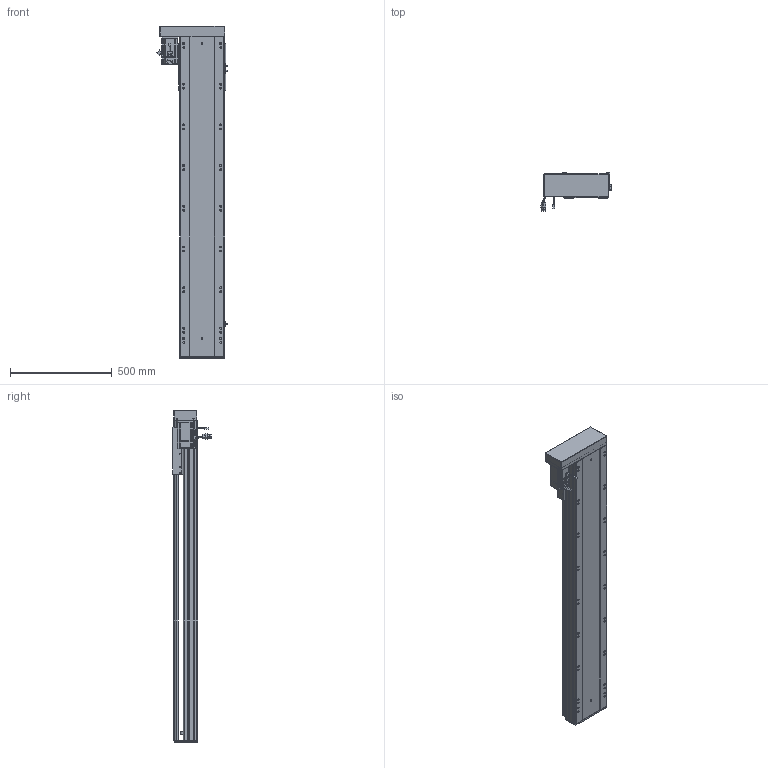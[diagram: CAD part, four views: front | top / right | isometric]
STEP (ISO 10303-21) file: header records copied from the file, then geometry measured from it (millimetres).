
FILE_DESCRIPTION (( 'STEP AP203' ), '1' );
FILE_NAME ('RY220-L2525-300-LK.SLDASM_1250.step', '2022-07-04T01:47:12', ( '' ), ( '' ), 'SwSTEP 2.0', 'SolidWorks 2016', '' );
FILE_SCHEMA (( 'CONFIG_CONTROL_DESIGN' ));
Length unit declared in the file: millimetre
Products named in the file (12): RY220綴裔啣; RY220蛌殏菁釱-300_1250; RY220酘衵殏萇儂欶; 覜茼ん672; RY220-L2525-300-LK.SLDASM_1250; RY220左右折电机安装板; 怢湛750W_ECMA-CX0807ES; 滅袉蝶18-15; RY220-300-蛌殏奻裔啣_1250; RY220-俋离672覜茼んえ; 滅袉蝶18-10; RY220半封闭25-32螺母铝滑块
Assembly tree (15 placements, depth 2):
  RY220-L2525-300-LK.SLDASM_1250
    RY220蛌殏菁釱-300_1250
    RY220-300-蛌殏奻裔啣_1250
    怢湛750W_ECMA-CX0807ES
    滅袉蝶18-10  x2
    RY220-俋离672覜茼んえ
    覜茼ん672  x3
    RY220綴裔啣
    RY220半封闭25-32螺母铝滑块
    滅袉蝶18-15  x2
    RY220左右折电机安装板
    RY220酘衵殏萇儂欶
Bounding box: 347.44 x 189.27 x 1632 mm (x, y, z)
Volume: 13174670.6 mm3; surface area: 3905923.7 mm2
Topology: 16 solids, 16 shells, 2215 faces, 6116 edges, 3859 vertices
Faces by surface type: cylinder 1011, plane 896, cone 238, bspline 44, sphere 16, torus 10
Entity records: 73229 total; most frequent: CARTESIAN_POINT 21233, ORIENTED_EDGE 10784, DIRECTION 10180, EDGE_CURVE 5392, AXIS2_PLACEMENT_3D 3593, VERTEX_POINT 3515, VECTOR 2994, LINE 2994
